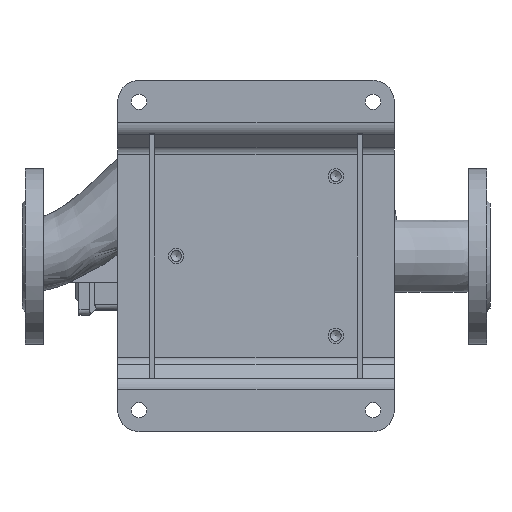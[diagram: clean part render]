
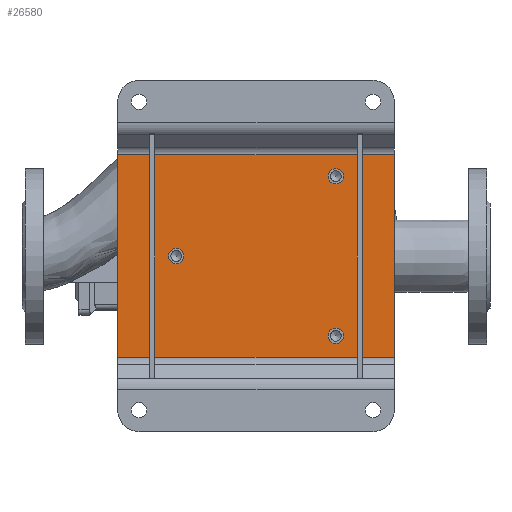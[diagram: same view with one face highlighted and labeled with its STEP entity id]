
A CAD part, top view. The second image highlights one B-rep face of the part: STEP entity #26580.
In plain terms, the highlighted planar face has unit normal (0, 0, 1) as drawn and (0, -1, 0) by its records, which use the part's own axes.
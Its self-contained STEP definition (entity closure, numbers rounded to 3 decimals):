
#1250 = FACE_BOUND ( 'NONE', #9922, .T. ) ;
#2430 = ORIENTED_EDGE ( 'NONE', *, *, #18332, .F. ) ;
#2554 = CARTESIAN_POINT ( 'NONE',  ( 95., -5., 130. ) ) ;
#3759 = CARTESIAN_POINT ( 'NONE',  ( 75., -5., 75. ) ) ;
#4668 = EDGE_CURVE ( 'NONE', #36579, #36579, #13451, .T. ) ;
#5262 = ORIENTED_EDGE ( 'NONE', *, *, #36699, .F. ) ;
#6919 = DIRECTION ( 'NONE',  ( 0., 0., -1. ) ) ;
#7525 = ORIENTED_EDGE ( 'NONE', *, *, #25871, .F. ) ;
#8920 = AXIS2_PLACEMENT_3D ( 'NONE', #46391, #43395, #12607 ) ;
#9239 = DIRECTION ( 'NONE',  ( 0., 0., -1. ) ) ;
#9486 = CARTESIAN_POINT ( 'NONE',  ( -95., -5., 130. ) ) ;
#9797 = DIRECTION ( 'NONE',  ( -1., 0., 0. ) ) ;
#9922 = EDGE_LOOP ( 'NONE', ( #35473 ) ) ;
#10021 = ORIENTED_EDGE ( 'NONE', *, *, #4668, .F. ) ;
#10508 = EDGE_LOOP ( 'NONE', ( #10021 ) ) ;
#12287 = EDGE_LOOP ( 'NONE', ( #5262 ) ) ;
#12607 = DIRECTION ( 'NONE',  ( 0., 0., -1. ) ) ;
#13451 = CIRCLE ( 'NONE', #37843, 7.25 ) ;
#14977 = LINE ( 'NONE', #26075, #24728 ) ;
#15246 = ORIENTED_EDGE ( 'NONE', *, *, #41254, .F. ) ;
#15862 = VERTEX_POINT ( 'NONE', #20024 ) ;
#16818 = CARTESIAN_POINT ( 'NONE',  ( 75., -5., 67.75 ) ) ;
#17134 = DIRECTION ( 'NONE',  ( 0., 0., 1. ) ) ;
#17880 = DIRECTION ( 'NONE',  ( 0., 0., -1. ) ) ;
#18332 = EDGE_CURVE ( 'NONE', #41298, #41564, #47955, .T. ) ;
#18739 = ORIENTED_EDGE ( 'NONE', *, *, #27627, .F. ) ;
#19986 = FACE_BOUND ( 'NONE', #10508, .T. ) ;
#20024 = CARTESIAN_POINT ( 'NONE',  ( -75., -5., 67.75 ) ) ;
#20500 = VERTEX_POINT ( 'NONE', #16818 ) ;
#20992 = EDGE_CURVE ( 'NONE', #15862, #15862, #45871, .T. ) ;
#21238 = CARTESIAN_POINT ( 'NONE',  ( -75., -5., 75. ) ) ;
#21559 = CARTESIAN_POINT ( 'NONE',  ( -95., -5., 130. ) ) ;
#21764 = DIRECTION ( 'NONE',  ( 0., 0., -1. ) ) ;
#22008 = CARTESIAN_POINT ( 'NONE',  ( 95., -5., 130. ) ) ;
#23294 = CIRCLE ( 'NONE', #35871, 7.25 ) ;
#23505 = VECTOR ( 'NONE', #9797, 1000. ) ;
#24728 = VECTOR ( 'NONE', #41093, 1000. ) ;
#24839 = CARTESIAN_POINT ( 'NONE',  ( -95., -5., -130. ) ) ;
#25290 = CARTESIAN_POINT ( 'NONE',  ( 0., -5., -75. ) ) ;
#25871 = EDGE_CURVE ( 'NONE', #39535, #31373, #32138, .T. ) ;
#26075 = CARTESIAN_POINT ( 'NONE',  ( -95., -5., 130. ) ) ;
#26127 = CARTESIAN_POINT ( 'NONE',  ( 95., -5., -130. ) ) ;
#26580 = ADVANCED_FACE ( 'NONE', ( #31076, #19986, #1250, #38495 ), #31322, .T. ) ;
#27627 = EDGE_CURVE ( 'NONE', #41564, #39535, #14977, .T. ) ;
#29183 = EDGE_LOOP ( 'NONE', ( #7525, #18739, #2430, #15246 ) ) ;
#29249 = CARTESIAN_POINT ( 'NONE',  ( -95., -5., -130. ) ) ;
#29659 = DIRECTION ( 'NONE',  ( 0., -1., 0. ) ) ;
#31076 = FACE_BOUND ( 'NONE', #12287, .T. ) ;
#31322 = PLANE ( 'NONE',  #8920 ) ;
#31373 = VERTEX_POINT ( 'NONE', #26127 ) ;
#32138 = LINE ( 'NONE', #2554, #35647 ) ;
#33038 = DIRECTION ( 'NONE',  ( 0., -1., 0. ) ) ;
#35473 = ORIENTED_EDGE ( 'NONE', *, *, #20992, .F. ) ;
#35647 = VECTOR ( 'NONE', #9239, 1000. ) ;
#35871 = AXIS2_PLACEMENT_3D ( 'NONE', #3759, #29659, #21764 ) ;
#36579 = VERTEX_POINT ( 'NONE', #43996 ) ;
#36699 = EDGE_CURVE ( 'NONE', #20500, #20500, #23294, .T. ) ;
#37843 = AXIS2_PLACEMENT_3D ( 'NONE', #25290, #40307, #17880 ) ;
#38495 = FACE_OUTER_BOUND ( 'NONE', #29183, .T. ) ;
#39535 = VERTEX_POINT ( 'NONE', #22008 ) ;
#40214 = VECTOR ( 'NONE', #17134, 1000. ) ;
#40307 = DIRECTION ( 'NONE',  ( 0., -1., 0. ) ) ;
#41093 = DIRECTION ( 'NONE',  ( 1., 0., 0. ) ) ;
#41140 = AXIS2_PLACEMENT_3D ( 'NONE', #21238, #33038, #6919 ) ;
#41254 = EDGE_CURVE ( 'NONE', #31373, #41298, #47764, .T. ) ;
#41298 = VERTEX_POINT ( 'NONE', #24839 ) ;
#41564 = VERTEX_POINT ( 'NONE', #9486 ) ;
#43395 = DIRECTION ( 'NONE',  ( 0., -1., 0. ) ) ;
#43996 = CARTESIAN_POINT ( 'NONE',  ( 0., -5., -82.25 ) ) ;
#45871 = CIRCLE ( 'NONE', #41140, 7.25 ) ;
#46391 = CARTESIAN_POINT ( 'NONE',  ( 0., -5., 0. ) ) ;
#47764 = LINE ( 'NONE', #29249, #23505 ) ;
#47955 = LINE ( 'NONE', #21559, #40214 ) ;
